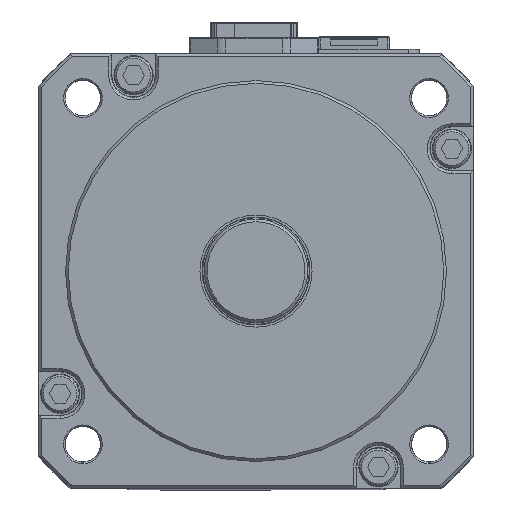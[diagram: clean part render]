
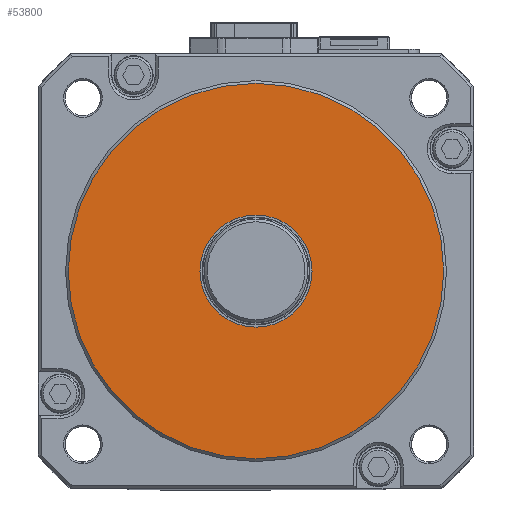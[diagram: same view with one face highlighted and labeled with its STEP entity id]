
A CAD part, top view. The second image highlights one B-rep face of the part: STEP entity #53800.
In plain terms, the highlighted planar face has unit normal (0, 0, 1).
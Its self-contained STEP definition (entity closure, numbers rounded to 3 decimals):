
#949 = DIRECTION ( 'NONE',  ( 0., 0., 1. ) ) ;
#2316 = VERTEX_POINT ( 'NONE', #29474 ) ;
#3476 = PLANE ( 'NONE',  #44229 ) ;
#5570 = EDGE_LOOP ( 'NONE', ( #29853 ) ) ;
#6380 = CARTESIAN_POINT ( 'NONE',  ( 0., 0., 13. ) ) ;
#9698 = DIRECTION ( 'NONE',  ( 0., 0., 1. ) ) ;
#10695 = CIRCLE ( 'NONE', #42572, 10.3 ) ;
#17429 = DIRECTION ( 'NONE',  ( 1., 0., 0. ) ) ;
#21496 = AXIS2_PLACEMENT_3D ( 'NONE', #6380, #28182, #17429 ) ;
#28182 = DIRECTION ( 'NONE',  ( 0., 0., 1. ) ) ;
#29281 = ORIENTED_EDGE ( 'NONE', *, *, #47248, .T. ) ;
#29474 = CARTESIAN_POINT ( 'NONE',  ( 10.3, 0., 13. ) ) ;
#29853 = ORIENTED_EDGE ( 'NONE', *, *, #66616, .F. ) ;
#30664 = FACE_OUTER_BOUND ( 'NONE', #58150, .T. ) ;
#31500 = DIRECTION ( 'NONE',  ( 1., 0., 0. ) ) ;
#32514 = CARTESIAN_POINT ( 'NONE',  ( 0., 0., 13. ) ) ;
#39075 = CARTESIAN_POINT ( 'NONE',  ( 0., 0., 13. ) ) ;
#42572 = AXIS2_PLACEMENT_3D ( 'NONE', #32514, #9698, #31500 ) ;
#44229 = AXIS2_PLACEMENT_3D ( 'NONE', #39075, #949, #49764 ) ;
#46249 = VERTEX_POINT ( 'NONE', #67748 ) ;
#46981 = FACE_BOUND ( 'NONE', #5570, .T. ) ;
#47248 = EDGE_CURVE ( 'NONE', #46249, #46249, #64808, .T. ) ;
#49764 = DIRECTION ( 'NONE',  ( 1., 0., 0. ) ) ;
#53800 = ADVANCED_FACE ( 'NONE', ( #46981, #30664 ), #3476, .T. ) ;
#58150 = EDGE_LOOP ( 'NONE', ( #29281 ) ) ;
#64808 = CIRCLE ( 'NONE', #21496, 34.5 ) ;
#66616 = EDGE_CURVE ( 'NONE', #2316, #2316, #10695, .T. ) ;
#67748 = CARTESIAN_POINT ( 'NONE',  ( 34.5, 0., 13. ) ) ;
